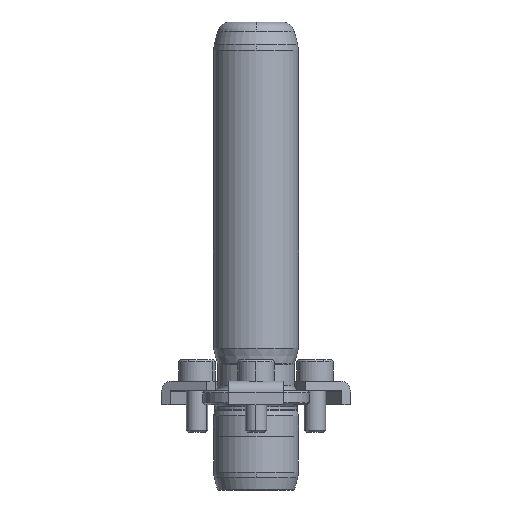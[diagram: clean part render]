
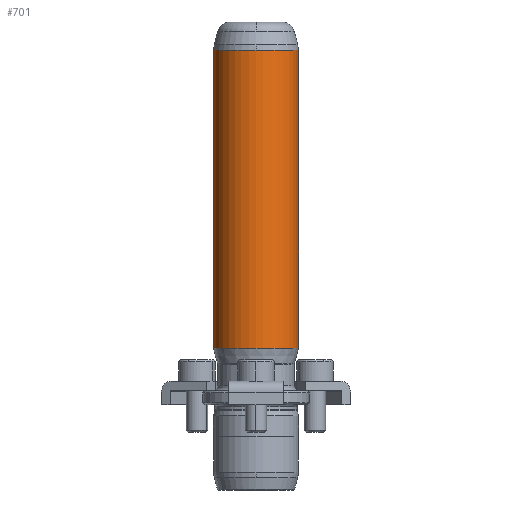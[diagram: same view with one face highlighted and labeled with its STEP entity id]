
A CAD part, front view. The second image highlights one B-rep face of the part: STEP entity #701.
In plain terms, the highlighted cylindrical face has radius 10 mm (diameter 20 mm), a partial arc.
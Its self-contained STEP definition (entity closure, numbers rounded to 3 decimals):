
#614=CARTESIAN_POINT('',(0.0,-10.,83.342));
#615=VERTEX_POINT('',#614);
#642=CARTESIAN_POINT('',(-10.0,0.,83.342));
#643=VERTEX_POINT('',#642);
#651=CARTESIAN_POINT('',(0.0,0.,83.342));
#652=DIRECTION('',(0.0,0.0,1.0));
#653=DIRECTION('',(1.0,0.0,0.0));
#654=AXIS2_PLACEMENT_3D('',#651,#652,#653);
#655=CIRCLE('',#654,10.0);
#656=EDGE_CURVE('',#643,#615,#655,.T.);
#661=CARTESIAN_POINT('',(0.0,0.,48.321));
#662=DIRECTION('',(0.0,0.,1.0));
#663=DIRECTION('',(1.0,0.0,0.0));
#664=AXIS2_PLACEMENT_3D('',#661,#662,#663);
#665=CYLINDRICAL_SURFACE('',#664,10.0);
#666=CARTESIAN_POINT('',(10.0,0.,83.342));
#667=VERTEX_POINT('',#666);
#668=CARTESIAN_POINT('',(10.0,0.,13.3));
#669=VERTEX_POINT('',#668);
#670=CARTESIAN_POINT('',(10.0,0.,83.342));
#671=DIRECTION('',(0.0,0.0,-1.0));
#672=VECTOR('',#671,70.042);
#673=LINE('',#670,#672);
#674=EDGE_CURVE('',#667,#669,#673,.T.);
#675=ORIENTED_EDGE('',*,*,#674,.F.);
#676=CARTESIAN_POINT('',(0.0,0.,83.342));
#677=DIRECTION('',(0.0,0.0,1.0));
#678=DIRECTION('',(1.0,0.0,0.0));
#679=AXIS2_PLACEMENT_3D('',#676,#677,#678);
#680=CIRCLE('',#679,10.0);
#681=EDGE_CURVE('',#615,#667,#680,.T.);
#682=ORIENTED_EDGE('',*,*,#681,.F.);
#683=ORIENTED_EDGE('',*,*,#656,.F.);
#684=CARTESIAN_POINT('',(-10.,0.,13.3));
#685=VERTEX_POINT('',#684);
#686=CARTESIAN_POINT('',(-10.0,0.,83.342));
#687=DIRECTION('',(0.0,0.0,-1.0));
#688=VECTOR('',#687,70.042);
#689=LINE('',#686,#688);
#690=EDGE_CURVE('',#643,#685,#689,.T.);
#691=ORIENTED_EDGE('',*,*,#690,.T.);
#692=CARTESIAN_POINT('',(0.0,0.,13.3));
#693=DIRECTION('',(0.0,0.0,1.0));
#694=DIRECTION('',(1.0,0.0,0.0));
#695=AXIS2_PLACEMENT_3D('',#692,#693,#694);
#696=CIRCLE('',#695,10.0);
#697=EDGE_CURVE('',#685,#669,#696,.T.);
#698=ORIENTED_EDGE('',*,*,#697,.T.);
#699=EDGE_LOOP('',(#675,#682,#683,#691,#698));
#700=FACE_OUTER_BOUND('',#699,.T.);
#701=ADVANCED_FACE('',(#700),#665,.T.);
